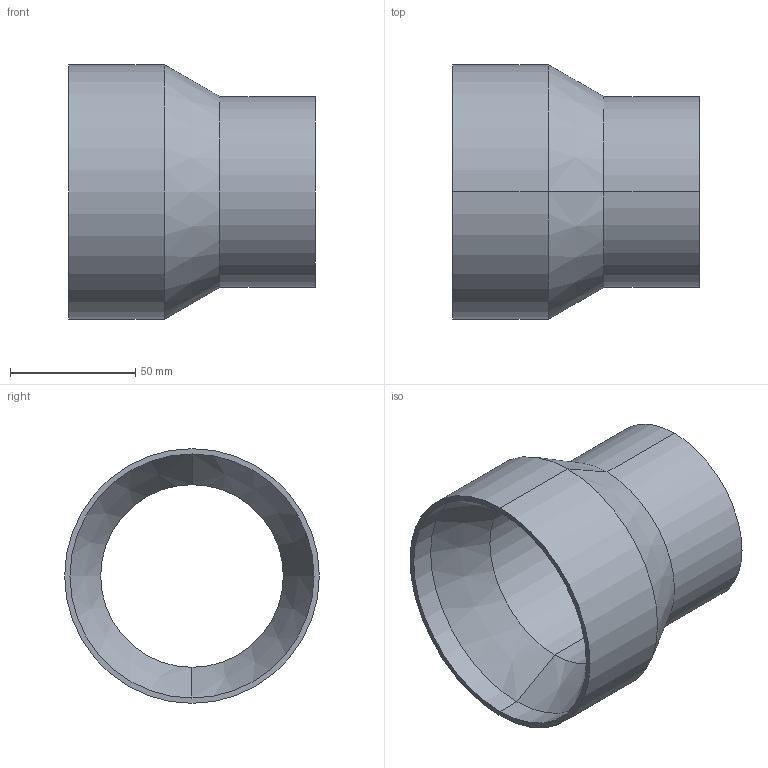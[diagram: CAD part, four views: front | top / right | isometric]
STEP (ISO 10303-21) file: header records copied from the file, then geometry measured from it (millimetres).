
FILE_DESCRIPTION (( 'STEP AP214' ), '1' );
FILE_NAME ('TE31SWW6L4.0x3.0-...STEP', '2016-05-29T10:10:58', ( 'eran' ), ( '' ), 'SwSTEP 2.0', 'SolidWorks 2016', '' );
FILE_SCHEMA (( 'AUTOMOTIVE_DESIGN' ));
Length unit declared in the file: millimetre
Products named in the file (1): TE31SWW6L4.0x3.0-..
Bounding box: 98.42 x 101.6 x 101.6 mm (x, y, z)
Volume: 146488.2 mm3; surface area: 54443.2 mm2
Topology: 1 solids, 1 shells, 14 faces, 28 edges, 16 vertices
Faces by surface type: cylinder 8, cone 4, plane 2
Entity records: 402 total; most frequent: DIRECTION 74, CARTESIAN_POINT 59, ORIENTED_EDGE 56, AXIS2_PLACEMENT_3D 31, EDGE_CURVE 28, EDGE_LOOP 16, CIRCLE 16, VERTEX_POINT 16
